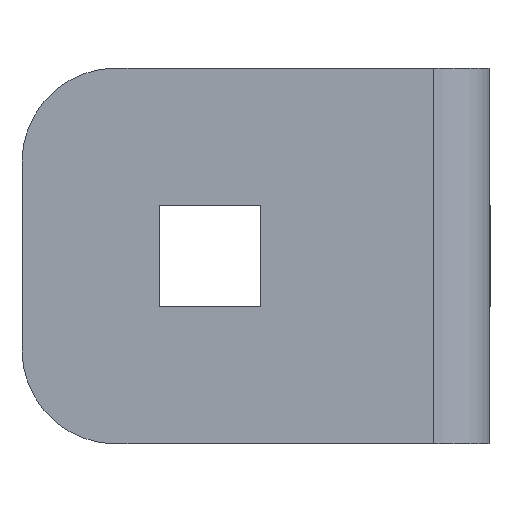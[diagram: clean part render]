
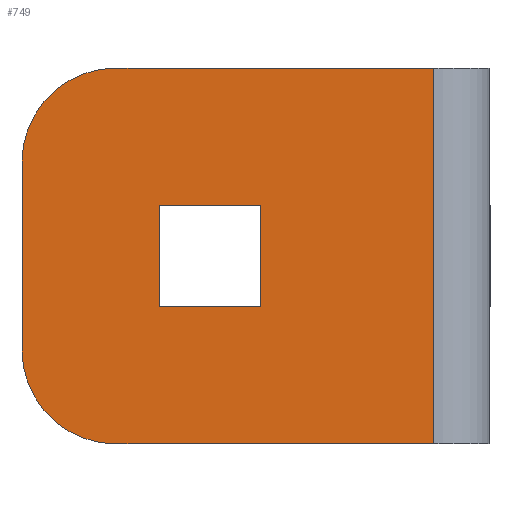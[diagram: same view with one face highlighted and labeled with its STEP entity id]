
A CAD part, front view. The second image highlights one B-rep face of the part: STEP entity #749.
In plain terms, the highlighted planar face has unit normal (0, -1, 0).
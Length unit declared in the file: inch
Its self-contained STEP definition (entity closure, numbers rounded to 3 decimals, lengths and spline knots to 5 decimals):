
#508 = VERTEX_POINT ( 'NONE', #1681 ) ;
#510 = EDGE_CURVE ( 'NONE', #511, #508, #1680, .T. ) ;
#511 = VERTEX_POINT ( 'NONE', #1676 ) ;
#512 = EDGE_LOOP ( 'NONE', ( #750, #754, #757, #760 ) ) ;
#691 = EDGE_CURVE ( 'NONE', #739, #737, #2311, .T. ) ;
#692 = ORIENTED_EDGE ( 'NONE', *, *, #693, .T. ) ;
#693 = EDGE_CURVE ( 'NONE', #739, #511, #2307, .T. ) ;
#727 = EDGE_CURVE ( 'NONE', #753, #759, #1749, .T. ) ;
#728 = ORIENTED_EDGE ( 'NONE', *, *, #510, .T. ) ;
#729 = ORIENTED_EDGE ( 'NONE', *, *, #730, .T. ) ;
#730 = EDGE_CURVE ( 'NONE', #508, #731, #1745, .T. ) ;
#731 = VERTEX_POINT ( 'NONE', #1740 ) ;
#732 = ORIENTED_EDGE ( 'NONE', *, *, #733, .T. ) ;
#733 = EDGE_CURVE ( 'NONE', #731, #734, #1834, .T. ) ;
#734 = VERTEX_POINT ( 'NONE', #1830 ) ;
#735 = ORIENTED_EDGE ( 'NONE', *, *, #736, .F. ) ;
#736 = EDGE_CURVE ( 'NONE', #737, #734, #1829, .T. ) ;
#737 = VERTEX_POINT ( 'NONE', #1825 ) ;
#738 = ORIENTED_EDGE ( 'NONE', *, *, #691, .F. ) ;
#739 = VERTEX_POINT ( 'NONE', #1824 ) ;
#749 = ADVANCED_FACE ( 'NONE', ( #1884, #1883 ), #1882, .F. ) ;
#750 = ORIENTED_EDGE ( 'NONE', *, *, #751, .F. ) ;
#751 = EDGE_CURVE ( 'NONE', #752, #753, #1877, .T. ) ;
#752 = VERTEX_POINT ( 'NONE', #1873 ) ;
#753 = VERTEX_POINT ( 'NONE', #1872 ) ;
#754 = ORIENTED_EDGE ( 'NONE', *, *, #755, .F. ) ;
#755 = EDGE_CURVE ( 'NONE', #756, #752, #1871, .T. ) ;
#756 = VERTEX_POINT ( 'NONE', #1867 ) ;
#757 = ORIENTED_EDGE ( 'NONE', *, *, #758, .F. ) ;
#758 = EDGE_CURVE ( 'NONE', #759, #756, #1866, .T. ) ;
#759 = VERTEX_POINT ( 'NONE', #1862 ) ;
#760 = ORIENTED_EDGE ( 'NONE', *, *, #727, .F. ) ;
#761 = EDGE_LOOP ( 'NONE', ( #728, #729, #732, #735, #738, #692 ) ) ;
#1676 = CARTESIAN_POINT ( 'NONE',  ( -1.245, 0., 0.25 ) ) ;
#1677 = DIRECTION ( 'NONE',  ( 0., 0., -1. ) ) ;
#1678 = VECTOR ( 'NONE', #1677, 39.37008 ) ;
#1679 = CARTESIAN_POINT ( 'NONE',  ( -1.245, 0., 0.5 ) ) ;
#1680 = LINE ( 'NONE', #1679, #1678 ) ;
#1681 = CARTESIAN_POINT ( 'NONE',  ( -1.245, 0., -0.25 ) ) ;
#1740 = CARTESIAN_POINT ( 'NONE',  ( -0.995, 0., -0.5 ) ) ;
#1741 = DIRECTION ( 'NONE',  ( 0., 0., 1. ) ) ;
#1742 = DIRECTION ( 'NONE',  ( 0., -1., 0. ) ) ;
#1743 = CARTESIAN_POINT ( 'NONE',  ( -0.995, 0., -0.25 ) ) ;
#1744 = AXIS2_PLACEMENT_3D ( 'NONE', #1743, #1742, #1741 ) ;
#1745 = CIRCLE ( 'NONE', #1744, 0.25 ) ;
#1746 = DIRECTION ( 'NONE',  ( 0., 0., 1. ) ) ;
#1747 = VECTOR ( 'NONE', #1746, 39.37008 ) ;
#1748 = CARTESIAN_POINT ( 'NONE',  ( -0.61, 0., 0.135 ) ) ;
#1749 = LINE ( 'NONE', #1748, #1747 ) ;
#1824 = CARTESIAN_POINT ( 'NONE',  ( -0.995, 0., 0.5 ) ) ;
#1825 = CARTESIAN_POINT ( 'NONE',  ( -0.15, 0., 0.5 ) ) ;
#1826 = DIRECTION ( 'NONE',  ( 0., 0., -1. ) ) ;
#1827 = VECTOR ( 'NONE', #1826, 39.37008 ) ;
#1828 = CARTESIAN_POINT ( 'NONE',  ( -0.15, 0., 0.5 ) ) ;
#1829 = LINE ( 'NONE', #1828, #1827 ) ;
#1830 = CARTESIAN_POINT ( 'NONE',  ( -0.15, 0., -0.5 ) ) ;
#1831 = DIRECTION ( 'NONE',  ( 1., 0., 0. ) ) ;
#1832 = VECTOR ( 'NONE', #1831, 39.37008 ) ;
#1833 = CARTESIAN_POINT ( 'NONE',  ( -1.245, 0., -0.5 ) ) ;
#1834 = LINE ( 'NONE', #1833, #1832 ) ;
#1862 = CARTESIAN_POINT ( 'NONE',  ( -0.61, 0., 0.135 ) ) ;
#1863 = DIRECTION ( 'NONE',  ( -1., 0., 0. ) ) ;
#1864 = VECTOR ( 'NONE', #1863, 39.37008 ) ;
#1865 = CARTESIAN_POINT ( 'NONE',  ( -0.88, 0., 0.135 ) ) ;
#1866 = LINE ( 'NONE', #1865, #1864 ) ;
#1867 = CARTESIAN_POINT ( 'NONE',  ( -0.88, 0., 0.135 ) ) ;
#1868 = DIRECTION ( 'NONE',  ( 0., 0., -1. ) ) ;
#1869 = VECTOR ( 'NONE', #1868, 39.37008 ) ;
#1870 = CARTESIAN_POINT ( 'NONE',  ( -0.88, 0., 0.135 ) ) ;
#1871 = LINE ( 'NONE', #1870, #1869 ) ;
#1872 = CARTESIAN_POINT ( 'NONE',  ( -0.61, 0., -0.135 ) ) ;
#1873 = CARTESIAN_POINT ( 'NONE',  ( -0.88, 0., -0.135 ) ) ;
#1874 = DIRECTION ( 'NONE',  ( 1., 0., 0. ) ) ;
#1875 = VECTOR ( 'NONE', #1874, 39.37008 ) ;
#1876 = CARTESIAN_POINT ( 'NONE',  ( -0.88, 0., -0.135 ) ) ;
#1877 = LINE ( 'NONE', #1876, #1875 ) ;
#1878 = DIRECTION ( 'NONE',  ( 0., 0., 1. ) ) ;
#1879 = DIRECTION ( 'NONE',  ( 0., 1., 0. ) ) ;
#1880 = CARTESIAN_POINT ( 'NONE',  ( -1.245, 0., 0.5 ) ) ;
#1881 = AXIS2_PLACEMENT_3D ( 'NONE', #1880, #1879, #1878 ) ;
#1882 = PLANE ( 'NONE',  #1881 ) ;
#1883 = FACE_OUTER_BOUND ( 'NONE', #761, .T. ) ;
#1884 = FACE_BOUND ( 'NONE', #512, .T. ) ;
#1978 = DIRECTION ( 'NONE',  ( 0., 0., 1. ) ) ;
#1979 = DIRECTION ( 'NONE',  ( 0., -1., 0. ) ) ;
#2305 = CARTESIAN_POINT ( 'NONE',  ( -0.995, 0., 0.25 ) ) ;
#2306 = AXIS2_PLACEMENT_3D ( 'NONE', #2305, #1979, #1978 ) ;
#2307 = CIRCLE ( 'NONE', #2306, 0.25 ) ;
#2308 = DIRECTION ( 'NONE',  ( 1., 0., 0. ) ) ;
#2309 = VECTOR ( 'NONE', #2308, 39.37008 ) ;
#2310 = CARTESIAN_POINT ( 'NONE',  ( -1.245, 0., 0.5 ) ) ;
#2311 = LINE ( 'NONE', #2310, #2309 ) ;
